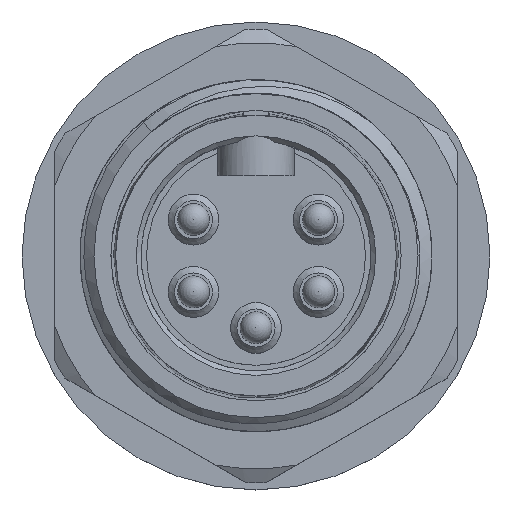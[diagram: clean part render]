
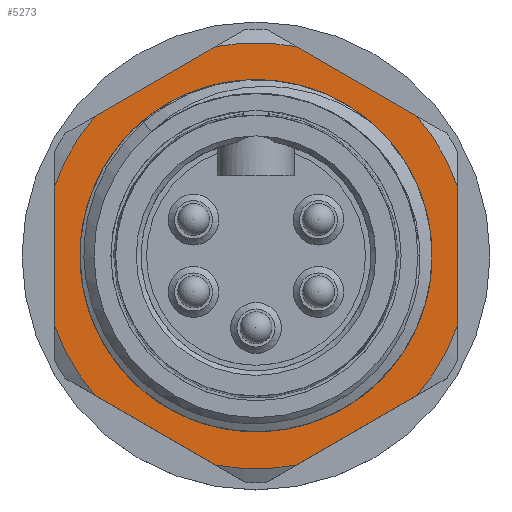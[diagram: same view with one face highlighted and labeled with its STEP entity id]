
A CAD part, top view. The second image highlights one B-rep face of the part: STEP entity #5273.
In plain terms, the highlighted planar face has unit normal (0, 0, 1).
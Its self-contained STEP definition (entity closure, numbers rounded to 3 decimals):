
#19 = VERTEX_POINT ( 'NONE', #4659 ) ;
#40 = VECTOR ( 'NONE', #4399, 1000. ) ;
#221 = DIRECTION ( 'NONE',  ( 0.866, 0.5, 0. ) ) ;
#372 = DIRECTION ( 'NONE',  ( -0.866, -0.5, 0. ) ) ;
#613 = ORIENTED_EDGE ( 'NONE', *, *, #10456, .T. ) ;
#641 = EDGE_LOOP ( 'NONE', ( #613, #766, #6298, #4331, #4461, #8182, #10838, #10484, #6793, #8312, #3283, #9578 ) ) ;
#688 = CARTESIAN_POINT ( 'NONE',  ( 0., 0., -8. ) ) ;
#715 = CARTESIAN_POINT ( 'NONE',  ( 0., 0., -8. ) ) ;
#766 = ORIENTED_EDGE ( 'NONE', *, *, #4667, .F. ) ;
#770 = CARTESIAN_POINT ( 'NONE',  ( 0., 0., -8. ) ) ;
#858 = CARTESIAN_POINT ( 'NONE',  ( -12.042, -7.712, -8. ) ) ;
#973 = VECTOR ( 'NONE', #1694, 1000. ) ;
#1151 = EDGE_CURVE ( 'NONE', #6501, #19, #6456, .T. ) ;
#1278 = LINE ( 'NONE', #5105, #8559 ) ;
#1470 = CIRCLE ( 'NONE', #9504, 13.434 ) ;
#1536 = CARTESIAN_POINT ( 'NONE',  ( 2.557, -13.188, -8. ) ) ;
#1694 = DIRECTION ( 'NONE',  ( -0.866, 0.5, 0. ) ) ;
#1833 = AXIS2_PLACEMENT_3D ( 'NONE', #10975, #5907, #9256 ) ;
#2234 = CARTESIAN_POINT ( 'NONE',  ( 9.9, 0., -8. ) ) ;
#2292 = VECTOR ( 'NONE', #372, 1000. ) ;
#2345 = AXIS2_PLACEMENT_3D ( 'NONE', #8238, #3155, #10884 ) ;
#2562 = LINE ( 'NONE', #9508, #40 ) ;
#2627 = ORIENTED_EDGE ( 'NONE', *, *, #5625, .F. ) ;
#2965 = CIRCLE ( 'NONE', #3383, 9.9 ) ;
#2969 = AXIS2_PLACEMENT_3D ( 'NONE', #10672, #4096, #10054 ) ;
#3150 = EDGE_LOOP ( 'NONE', ( #2627 ) ) ;
#3155 = DIRECTION ( 'NONE',  ( 0., 0., 1. ) ) ;
#3198 = VERTEX_POINT ( 'NONE', #9347 ) ;
#3208 = EDGE_CURVE ( 'NONE', #3198, #6669, #1278, .T. ) ;
#3221 = DIRECTION ( 'NONE',  ( 0., 0., 1. ) ) ;
#3283 = ORIENTED_EDGE ( 'NONE', *, *, #7695, .T. ) ;
#3383 = AXIS2_PLACEMENT_3D ( 'NONE', #770, #4193, #4958 ) ;
#3420 = DIRECTION ( 'NONE',  ( 0., 0., 1. ) ) ;
#3434 = CARTESIAN_POINT ( 'NONE',  ( 10.143, -8.809, -8. ) ) ;
#3738 = CIRCLE ( 'NONE', #9030, 13.434 ) ;
#3755 = VERTEX_POINT ( 'NONE', #5908 ) ;
#3770 = VERTEX_POINT ( 'NONE', #6693 ) ;
#3908 = VERTEX_POINT ( 'NONE', #5449 ) ;
#4096 = DIRECTION ( 'NONE',  ( 0., 0., -1. ) ) ;
#4193 = DIRECTION ( 'NONE',  ( 0., 0., 1. ) ) ;
#4331 = ORIENTED_EDGE ( 'NONE', *, *, #3208, .F. ) ;
#4399 = DIRECTION ( 'NONE',  ( 0., 1., 0. ) ) ;
#4461 = ORIENTED_EDGE ( 'NONE', *, *, #7160, .T. ) ;
#4542 = DIRECTION ( 'NONE',  ( 0., -1., 0. ) ) ;
#4657 = CIRCLE ( 'NONE', #5864, 13.434 ) ;
#4659 = CARTESIAN_POINT ( 'NONE',  ( -10.143, -8.809, -8. ) ) ;
#4667 = EDGE_CURVE ( 'NONE', #10178, #3770, #6550, .T. ) ;
#4701 = PLANE ( 'NONE',  #2969 ) ;
#4958 = DIRECTION ( 'NONE',  ( 1., 0., 0. ) ) ;
#5105 = CARTESIAN_POINT ( 'NONE',  ( 0.658, 14.285, -8. ) ) ;
#5161 = CARTESIAN_POINT ( 'NONE',  ( -2.557, 13.188, -8. ) ) ;
#5273 = ADVANCED_FACE ( 'NONE', ( #9087, #5616 ), #4701, .F. ) ;
#5301 = VECTOR ( 'NONE', #221, 1000. ) ;
#5441 = LINE ( 'NONE', #858, #973 ) ;
#5449 = CARTESIAN_POINT ( 'NONE',  ( -2.557, -13.188, -8. ) ) ;
#5465 = CARTESIAN_POINT ( 'NONE',  ( 12.042, -7.712, -8. ) ) ;
#5616 = FACE_BOUND ( 'NONE', #3150, .T. ) ;
#5625 = EDGE_CURVE ( 'NONE', #8078, #8078, #2965, .T. ) ;
#5725 = DIRECTION ( 'NONE',  ( 0., 0., 1. ) ) ;
#5772 = CARTESIAN_POINT ( 'NONE',  ( 10.143, 8.809, -8. ) ) ;
#5820 = CARTESIAN_POINT ( 'NONE',  ( 0., 0., -8. ) ) ;
#5864 = AXIS2_PLACEMENT_3D ( 'NONE', #7486, #6572, #8344 ) ;
#5907 = DIRECTION ( 'NONE',  ( 0., 0., 1. ) ) ;
#5908 = CARTESIAN_POINT ( 'NONE',  ( -12.7, 4.38, -8. ) ) ;
#6126 = CARTESIAN_POINT ( 'NONE',  ( 12.7, 6.573, -8. ) ) ;
#6298 = ORIENTED_EDGE ( 'NONE', *, *, #10833, .T. ) ;
#6456 = CIRCLE ( 'NONE', #1833, 13.434 ) ;
#6501 = VERTEX_POINT ( 'NONE', #9899 ) ;
#6550 = LINE ( 'NONE', #6126, #8402 ) ;
#6572 = DIRECTION ( 'NONE',  ( 0., 0., 1. ) ) ;
#6604 = EDGE_CURVE ( 'NONE', #7122, #3755, #4657, .T. ) ;
#6669 = VERTEX_POINT ( 'NONE', #5772 ) ;
#6693 = CARTESIAN_POINT ( 'NONE',  ( 12.7, -4.38, -8. ) ) ;
#6793 = ORIENTED_EDGE ( 'NONE', *, *, #1151, .T. ) ;
#7022 = CARTESIAN_POINT ( 'NONE',  ( -10.143, 8.809, -8. ) ) ;
#7122 = VERTEX_POINT ( 'NONE', #7022 ) ;
#7160 = EDGE_CURVE ( 'NONE', #3198, #7909, #3738, .T. ) ;
#7344 = DIRECTION ( 'NONE',  ( 1., 0., 0. ) ) ;
#7486 = CARTESIAN_POINT ( 'NONE',  ( 0., 0., -8. ) ) ;
#7695 = EDGE_CURVE ( 'NONE', #3908, #7785, #9189, .T. ) ;
#7785 = VERTEX_POINT ( 'NONE', #1536 ) ;
#7822 = LINE ( 'NONE', #9678, #5301 ) ;
#7909 = VERTEX_POINT ( 'NONE', #5161 ) ;
#8078 = VERTEX_POINT ( 'NONE', #2234 ) ;
#8182 = ORIENTED_EDGE ( 'NONE', *, *, #10170, .F. ) ;
#8224 = DIRECTION ( 'NONE',  ( 1., 0., 0. ) ) ;
#8238 = CARTESIAN_POINT ( 'NONE',  ( 0., 0., -8. ) ) ;
#8312 = ORIENTED_EDGE ( 'NONE', *, *, #8964, .F. ) ;
#8344 = DIRECTION ( 'NONE',  ( 1., 0., 0. ) ) ;
#8350 = CIRCLE ( 'NONE', #9711, 13.434 ) ;
#8368 = EDGE_CURVE ( 'NONE', #6501, #3755, #2562, .T. ) ;
#8402 = VECTOR ( 'NONE', #4542, 1000. ) ;
#8451 = EDGE_CURVE ( 'NONE', #9266, #7785, #9987, .T. ) ;
#8559 = VECTOR ( 'NONE', #10289, 1000. ) ;
#8964 = EDGE_CURVE ( 'NONE', #3908, #19, #5441, .T. ) ;
#9030 = AXIS2_PLACEMENT_3D ( 'NONE', #715, #5725, #8224 ) ;
#9087 = FACE_OUTER_BOUND ( 'NONE', #641, .T. ) ;
#9189 = CIRCLE ( 'NONE', #2345, 13.434 ) ;
#9256 = DIRECTION ( 'NONE',  ( 1., 0., 0. ) ) ;
#9266 = VERTEX_POINT ( 'NONE', #3434 ) ;
#9347 = CARTESIAN_POINT ( 'NONE',  ( 2.557, 13.188, -8. ) ) ;
#9504 = AXIS2_PLACEMENT_3D ( 'NONE', #688, #3221, #10070 ) ;
#9508 = CARTESIAN_POINT ( 'NONE',  ( -12.7, 6.573, -8. ) ) ;
#9578 = ORIENTED_EDGE ( 'NONE', *, *, #8451, .F. ) ;
#9643 = CARTESIAN_POINT ( 'NONE',  ( 12.7, 4.38, -8. ) ) ;
#9678 = CARTESIAN_POINT ( 'NONE',  ( -0.658, 14.285, -8. ) ) ;
#9711 = AXIS2_PLACEMENT_3D ( 'NONE', #5820, #3420, #7344 ) ;
#9899 = CARTESIAN_POINT ( 'NONE',  ( -12.7, -4.38, -8. ) ) ;
#9987 = LINE ( 'NONE', #5465, #2292 ) ;
#10054 = DIRECTION ( 'NONE',  ( 0., -1., 0. ) ) ;
#10070 = DIRECTION ( 'NONE',  ( 1., 0., 0. ) ) ;
#10170 = EDGE_CURVE ( 'NONE', #7122, #7909, #7822, .T. ) ;
#10178 = VERTEX_POINT ( 'NONE', #9643 ) ;
#10289 = DIRECTION ( 'NONE',  ( 0.866, -0.5, 0. ) ) ;
#10456 = EDGE_CURVE ( 'NONE', #9266, #3770, #8350, .T. ) ;
#10484 = ORIENTED_EDGE ( 'NONE', *, *, #8368, .F. ) ;
#10672 = CARTESIAN_POINT ( 'NONE',  ( 0., 9.9, -8. ) ) ;
#10833 = EDGE_CURVE ( 'NONE', #10178, #6669, #1470, .T. ) ;
#10838 = ORIENTED_EDGE ( 'NONE', *, *, #6604, .T. ) ;
#10884 = DIRECTION ( 'NONE',  ( 1., 0., 0. ) ) ;
#10975 = CARTESIAN_POINT ( 'NONE',  ( 0., 0., -8. ) ) ;
